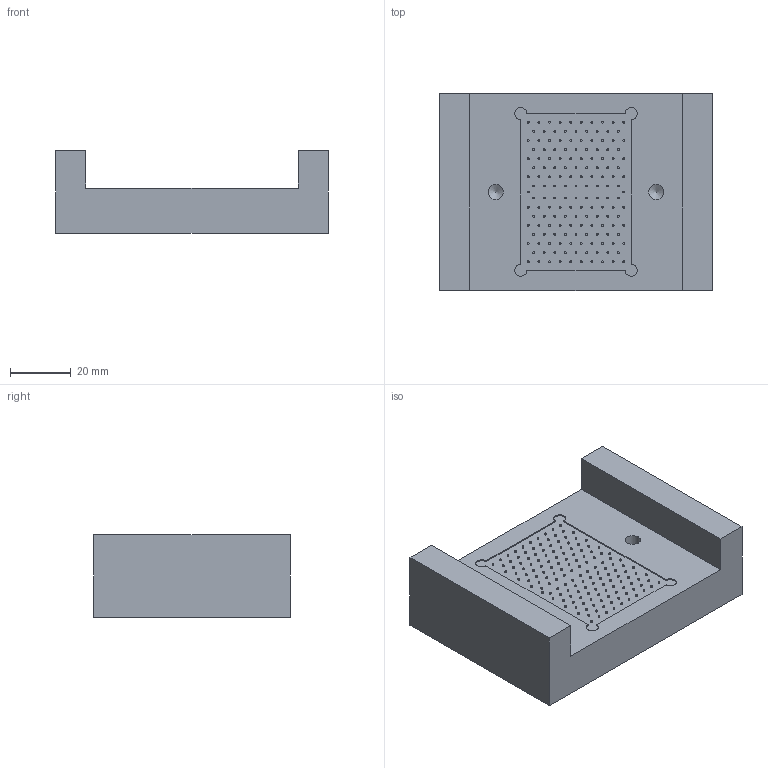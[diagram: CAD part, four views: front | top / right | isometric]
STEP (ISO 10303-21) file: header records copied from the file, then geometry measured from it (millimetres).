
FILE_DESCRIPTION(/* description */ ('Unknown'),/* implementation_level */ '2;1');
FILE_NAME(/* name */ 'flowE2-U12-TIM',/* time_stamp */ '2022-01-14T12:35:28+01:00',/* author */ ('Unknown'),/* organization */ ('Unknown'),/* preprocessor_version */ 'ST-DEVELOPER v16.7',/* originating_system */ 'Solid Edge',/* authorisation */ 'Unknown');
FILE_SCHEMA (('AUTOMOTIVE_DESIGN {1 0 10303 214 3 1 1}'));
Length unit declared in the file: millimetre
Products named in the file (1): flowE2-U12-TIM
Bounding box: 90 x 65 x 27.4 mm (x, y, z)
Volume: 102516.8 mm3; surface area: 20851.7 mm2
Topology: 1 solids, 1 shells, 429 faces, 793 edges, 528 vertices
Faces by surface type: plane 215, cylinder 200, bspline 10, cone 4
Full cylindrical faces by diameter (mm): 0.6 x118, 3.242 x4, 5 x2
Entity records: 13688 total; most frequent: CARTESIAN_POINT 2277, DIRECTION 1873, ORIENTED_EDGE 1310, AXIS2_PLACEMENT_3D 818, FACE_BOUND 725, EDGE_LOOP 721, EDGE_CURVE 655, VERTEX_POINT 524
